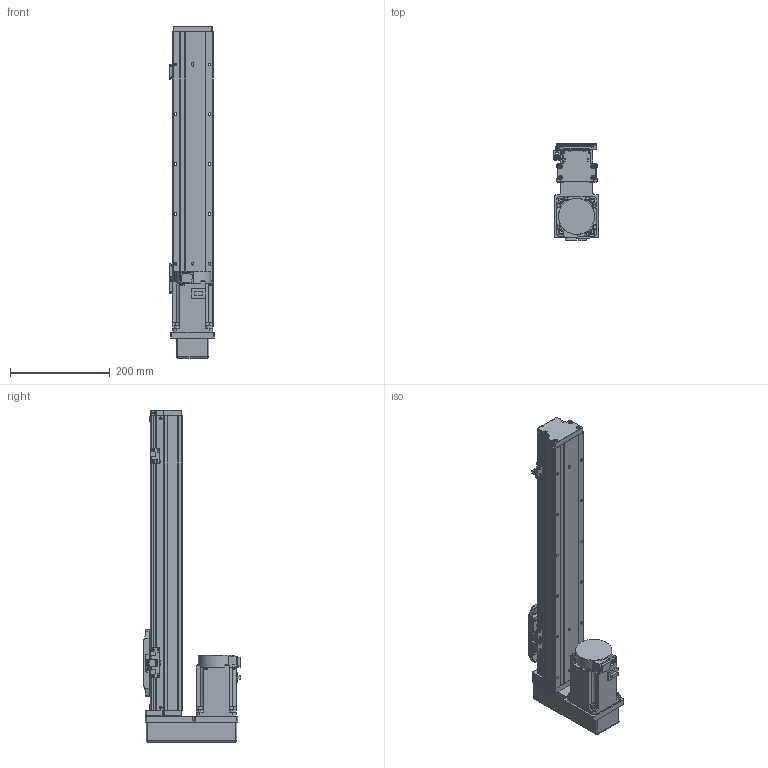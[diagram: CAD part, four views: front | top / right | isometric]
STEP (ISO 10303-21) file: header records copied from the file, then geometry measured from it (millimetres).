
FILE_DESCRIPTION (( 'STEP AP203' ), '1' );
FILE_NAME ('GTH8-400-BM-M75-C4.step', '2023-02-14T02:28:23', ( '微软用户' ), ( '微软中国' ), 'SwSTEP 2.0', 'SolidWorks 2020', '' );
FILE_SCHEMA (( 'CONFIG_CONTROL_DESIGN' ));
Length unit declared in the file: millimetre
Products named in the file (18): GTH80-001_400; GBT 70.1-M3℅6; CTHA86-015-3_CTHA86-015-4; GTH80-003; GBT 70.1-M4×16; CTHA86-035; GTH80-004; GTH80-028; hg-kn73j_-s100; GTH80-006; GTH50-024; GTH8-400-BM-M75-C4; GTH80-013; GTH50-023; GBT 70.3-M3℅6; GBT96.1-2002 3×0.8; GTH80-022; BTH-M3X5X6
Assembly tree (57 placements, depth 2):
  GTH8-400-BM-M75-C4
    GTH80-001_400
    GTH80-003
    GTH80-004
    GTH80-006
    GTH80-013
    GBT 70.3-M3℅6  x4
    GTH80-022
    GBT 70.1-M3℅6  x14
    GBT 70.1-M4×16  x8
    GTH80-028  x2
    GTH50-024  x3
    GTH50-023  x3
    GBT96.1-2002 3×0.8  x6
    BTH-M3X5X6  x8
    CTHA86-015-3_CTHA86-015-4
    CTHA86-035
    hg-kn73j_-s100
Bounding box: 89.4 x 195.3 x 666 mm (x, y, z)
Volume: 4102190.4 mm3; surface area: 438407.4 mm2
Topology: 59 solids, 59 shells, 2187 faces, 5070 edges, 3104 vertices
Faces by surface type: plane 1153, cylinder 619, cone 243, torus 158, sphere 12, bspline 2
Entity records: 39292 total; most frequent: CARTESIAN_POINT 6599, DIRECTION 6473, ORIENTED_EDGE 5950, EDGE_CURVE 2975, AXIS2_PLACEMENT_3D 2278, LINE 1917, VECTOR 1917, VERTEX_POINT 1879
